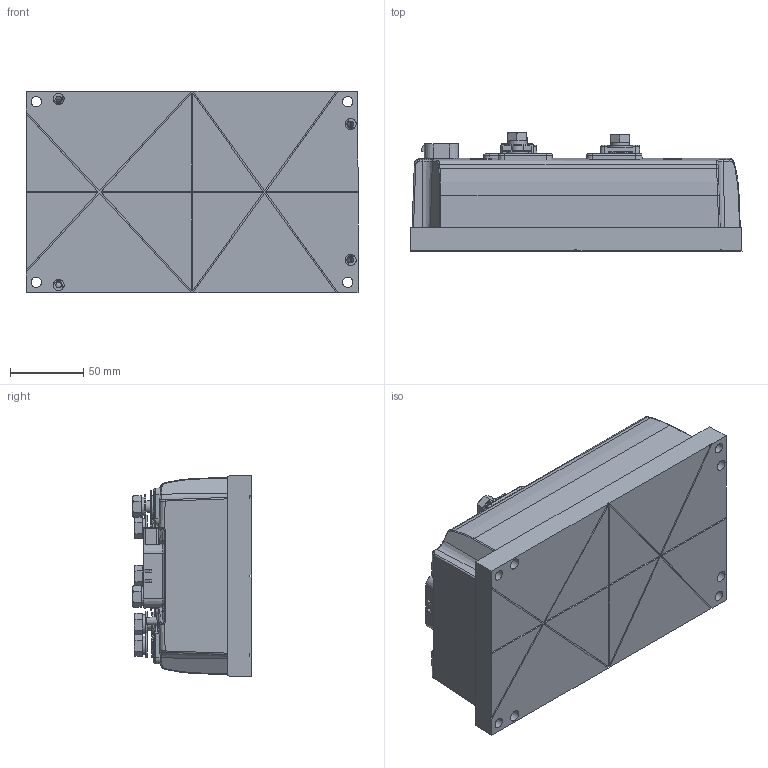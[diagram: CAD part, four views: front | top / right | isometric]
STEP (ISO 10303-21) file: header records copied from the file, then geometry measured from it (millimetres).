
FILE_DESCRIPTION (( 'STEP AP203' ), '1' );
FILE_NAME ('Dragon8 CONTROLLER.STEP', '2015-10-27T09:23:44', ( '' ), ( '' ), 'SwSTEP 2.0', 'SolidWorks 2015', '' );
FILE_SCHEMA (( 'CONFIG_CONTROL_DESIGN' ));
Length unit declared in the file: millimetre
Products named in the file (1): Dragon8 CONTROLLER
Bounding box: 227.1 x 80.92 x 137.6 mm (x, y, z)
Surface area: 131670.2 mm2 (no closed solid volume)
Topology: 0 solids, 76 shells, 1038 faces, 3596 edges, 2564 vertices
Faces by surface type: plane 407, cylinder 250, bspline 162, cone 128, torus 69, sphere 22
Full cylindrical faces by diameter (mm): 1.3 x16, 4.75 x1, 7 x4, 8 x3, 15 x1, 16.7 x5, 16.9 x6, 18 x2
Entity records: 46901 total; most frequent: CARTESIAN_POINT 19158, ORIENTED_EDGE 5487, DIRECTION 5132, EDGE_CURVE 3420, VERTEX_POINT 2503, AXIS2_PLACEMENT_3D 1782, LINE 1568, VECTOR 1568
